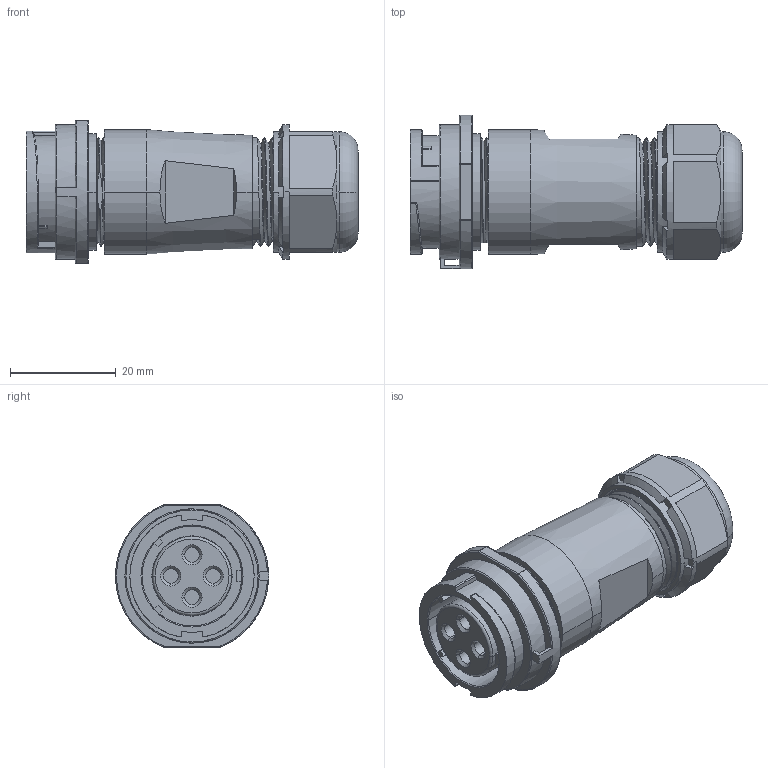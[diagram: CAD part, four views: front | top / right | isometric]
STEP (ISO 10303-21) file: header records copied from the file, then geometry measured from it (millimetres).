
FILE_DESCRIPTION((''),'2;1');
FILE_NAME('PRT0001','2015-03-30T',('Administrator'),(''),'PRO/ENGINEER BY PARAMETRIC TECHNOLOGY CORPORATION, 2009440','PRO/ENGINEER BY PARAMETRIC TECHNOLOGY CORPORATION, 2009440','');
FILE_SCHEMA(('CONFIG_CONTROL_DESIGN'));
Length unit declared in the file: millimetre
Products named in the file (1): PRT0001
Bounding box: 62.8 x 29 x 27 mm (x, y, z)
Volume: 22872.9 mm3; surface area: 9359.8 mm2
Topology: 1 solids, 1 shells, 307 faces, 790 edges, 505 vertices
Faces by surface type: plane 129, cylinder 83, cone 46, bspline 24, torus 15, sphere 10
Entity records: 12170 total; most frequent: CARTESIAN_POINT 4907, ORIENTED_EDGE 1560, DIRECTION 1444, EDGE_CURVE 780, AXIS2_PLACEMENT_3D 584, VERTEX_POINT 505, EDGE_LOOP 339, FACE_OUTER_BOUND 307
